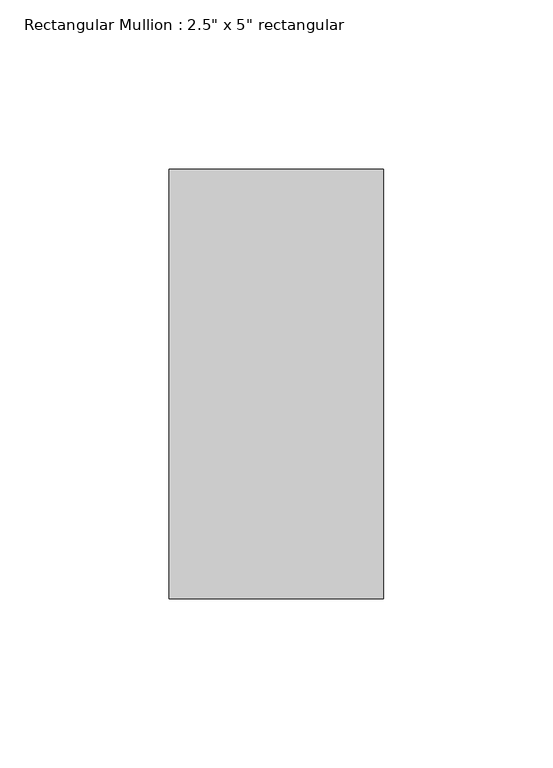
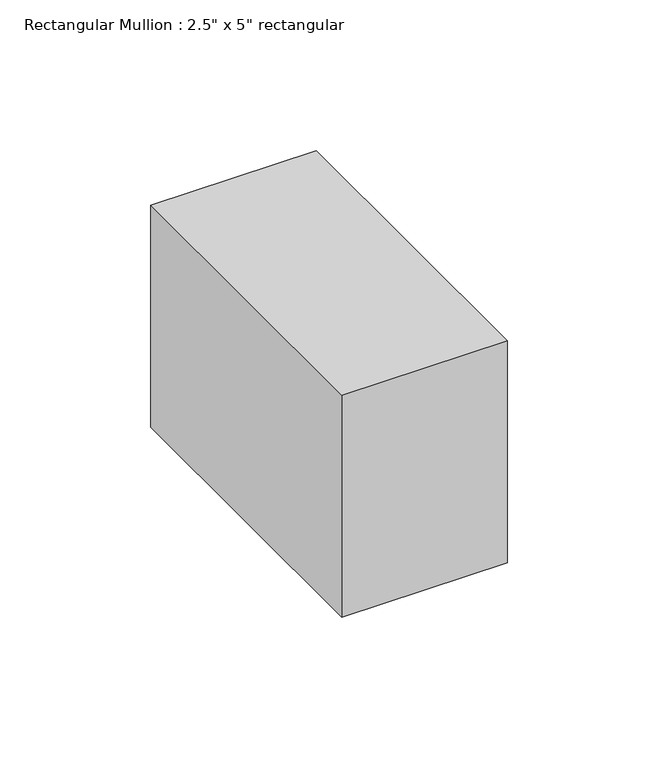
"""IFC4 building model written with IfcOpenShell, lengths in millimetres: member geometry."""

from ifc_helpers import new_model, si_unit, frame, origin, place, context, project, spatial, polyline, outline, extrude, source, transform, mapped, element, save


def member_8cadeb42(model_context):
    return source(origin(), model_context, "Body", "SweptSolid", [
        extrude(outline(polyline([(31.75, 63.5), (31.75, -63.5), (-31.75, -63.5), (-31.75, 63.5), (31.75, 63.5)])), frame((0.0, 0.0, -90.0214244), z_axis=(0.0, 0.0, 1.0), x_axis=(1.0, 0.0, 0.0)), (0.0, 0.0, 1.0), 90.0214244),
    ])


if __name__ == "__main__":
    model = new_model("IFC4")
    model_context = context("Model", 3, world=origin())
    ifc_project = project(units=[si_unit("LENGTHUNIT", "METRE", prefix="MILLI")], contexts=[model_context])
    site = spatial("IfcSite", under=ifc_project)
    building = spatial("IfcBuilding", under=site)
    placement = place(None, origin())
    member_shape = member_8cadeb42(model_context)
    element("IfcMember", 1, ObjectType="Rectangular Mullion : 2.5\" x 5\" rectangular", at=placement, inside=building, context=model_context, shape_type="MappedRepresentation", body=[
        mapped(member_shape, transform((0.0, 0.0, 0.0), x_axis=(1.0, 0.0, 0.0), y_axis=(0.0, 1.0, 0.0), z_axis=(0.0, 0.0, 1.0))),
    ])
    save(model, "model.ifc")
